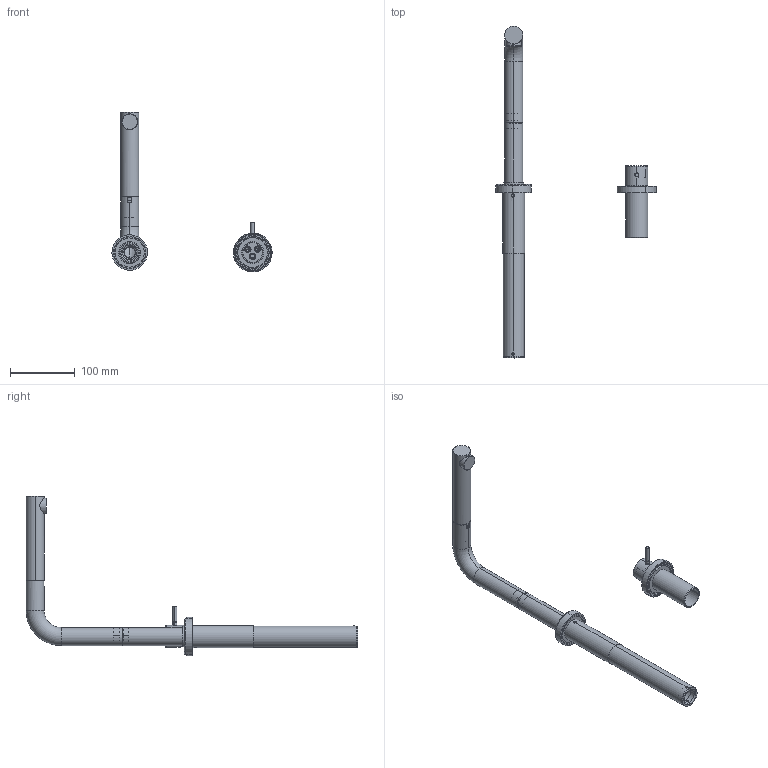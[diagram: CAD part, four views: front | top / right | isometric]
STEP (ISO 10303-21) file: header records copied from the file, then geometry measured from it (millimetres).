
FILE_DESCRIPTION (( 'STEP AP203' ), '1' );
FILE_NAME ('KT19E.STEP', '2025-02-10T07:44:54', ( '' ), ( '' ), 'SwSTEP 2.0', 'SolidWorks 2024', '' );
FILE_SCHEMA (( 'CONFIG_CONTROL_DESIGN' ));
Length unit declared in the file: millimetre
Products named in the file (33): C24.0534.00.1; C24.0010.00.0; C21.0374.00.0; C10.00.0013; 77RIBOR; C29.10.0002.01; C21.0875.00.0; C24.1350.00.0; C24.0870.00.2; C21.0876.00.0; C12.00.0043; KT19E; C24.0028.00.0; C24.0022.00.0; AS233_00; MME25  ESPL; C24.1348.00.1; C24.0120.00.1; C24.0705.00.0; C11.14.0004; C11.14.0019; C12.00.0004; C47.00.0023.01; C24.0545.00.3; C24.0121.00.0; C24.0872.00.0; 77MUM_CANOTTO; C24.0119.00.2; C12.00.0029; C24.1349.00.0; C21.0549.00.1; AS557_00; C12.00.0017
Assembly tree (34 placements, depth 4):
  KT19E
    MME25  ESPL
      C24.0010.00.0
      C12.00.0043
      C24.0119.00.2
      C24.0120.00.1
      C10.00.0013
      C24.0121.00.0
      C24.0028.00.0
      C24.0705.00.0
      C11.14.0019
      C47.00.0023.01
    77RIBOR
      AS233_00
        C24.0870.00.2
        C24.0545.00.3
        C21.0374.00.0
      AS557_00
        C24.1349.00.0
        C24.1350.00.0
        C21.0875.00.0
        C21.0876.00.0
        C12.00.0017  x2
        C12.00.0004
      C24.1348.00.1
      C24.0534.00.1
      C12.00.0029
      C21.0549.00.1
      C24.0872.00.0
      C11.14.0004  x2
      C24.0022.00.0
      77MUM_CANOTTO
    C29.10.0002.01
Bounding box: 247.4 x 512.5 x 246.93 mm (x, y, z)
Volume: 282051.7 mm3; surface area: 214940.7 mm2
Topology: 29 solids, 39 shells, 1184 faces, 3172 edges, 2049 vertices
Faces by surface type: cylinder 470, plane 355, cone 173, bspline 94, torus 92
Entity records: 45330 total; most frequent: CARTESIAN_POINT 13728, DIRECTION 5857, ORIENTED_EDGE 5716, EDGE_CURVE 3088, AXIS2_PLACEMENT_3D 2353, VERTEX_POINT 2013, EDGE_LOOP 1285, CIRCLE 1250
